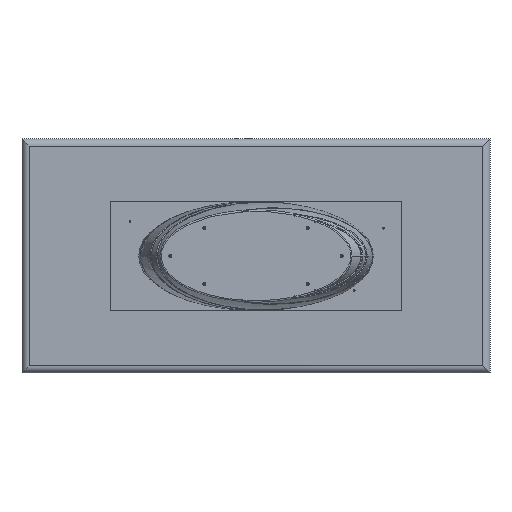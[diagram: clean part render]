
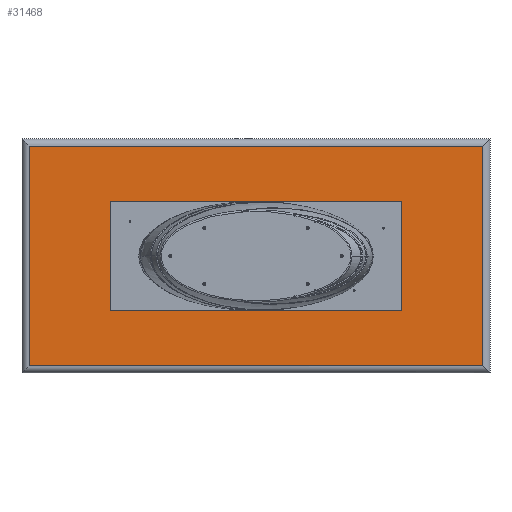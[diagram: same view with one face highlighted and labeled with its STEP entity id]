
A CAD part, front view. The second image highlights one B-rep face of the part: STEP entity #31468.
In plain terms, the highlighted planar face has unit normal (0, -1, 0).
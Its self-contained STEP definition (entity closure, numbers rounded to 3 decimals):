
#1004 = CARTESIAN_POINT ( 'NONE',  ( -1164., 40., 564. ) ) ;
#1040 = CARTESIAN_POINT ( 'NONE',  ( 1164., 40., -564. ) ) ;
#1234 = VECTOR ( 'NONE', #2031, 1000. ) ;
#1608 = CARTESIAN_POINT ( 'NONE',  ( 1164., 40., 600. ) ) ;
#2031 = DIRECTION ( 'NONE',  ( 1., 0., 0. ) ) ;
#4631 = DIRECTION ( 'NONE',  ( 0., 0., 1. ) ) ;
#6571 = EDGE_LOOP ( 'NONE', ( #32436, #36007, #7026, #34710 ) ) ;
#7026 = ORIENTED_EDGE ( 'NONE', *, *, #11405, .T. ) ;
#7038 = CARTESIAN_POINT ( 'NONE',  ( -1200., 40., 564. ) ) ;
#7820 = CARTESIAN_POINT ( 'NONE',  ( -1164., 40., -600. ) ) ;
#7834 = AXIS2_PLACEMENT_3D ( 'NONE', #12530, #18564, #9698 ) ;
#9246 = EDGE_CURVE ( 'NONE', #31222, #36343, #27664, .T. ) ;
#9654 = VECTOR ( 'NONE', #32732, 1000. ) ;
#9698 = DIRECTION ( 'NONE',  ( 0., 0., -1. ) ) ;
#11405 = EDGE_CURVE ( 'NONE', #21461, #14620, #21825, .T. ) ;
#12530 = CARTESIAN_POINT ( 'NONE',  ( 0., 40., 0. ) ) ;
#14620 = VERTEX_POINT ( 'NONE', #25001 ) ;
#16343 = DIRECTION ( 'NONE',  ( 0., 0., -1. ) ) ;
#17393 = VECTOR ( 'NONE', #4631, 1000. ) ;
#18564 = DIRECTION ( 'NONE',  ( 0., -1., 0. ) ) ;
#20340 = VECTOR ( 'NONE', #16343, 1000. ) ;
#21461 = VERTEX_POINT ( 'NONE', #1040 ) ;
#21825 = LINE ( 'NONE', #1608, #17393 ) ;
#25001 = CARTESIAN_POINT ( 'NONE',  ( 1164., 40., 564. ) ) ;
#27664 = LINE ( 'NONE', #7820, #20340 ) ;
#31208 = EDGE_CURVE ( 'NONE', #14620, #31222, #33485, .T. ) ;
#31222 = VERTEX_POINT ( 'NONE', #1004 ) ;
#31468 = ADVANCED_FACE ( 'NONE', ( #32917 ), #33306, .T. ) ;
#32436 = ORIENTED_EDGE ( 'NONE', *, *, #9246, .T. ) ;
#32632 = EDGE_CURVE ( 'NONE', #36343, #21461, #36230, .T. ) ;
#32732 = DIRECTION ( 'NONE',  ( -1., 0., 0. ) ) ;
#32917 = FACE_OUTER_BOUND ( 'NONE', #6571, .T. ) ;
#33306 = PLANE ( 'NONE',  #7834 ) ;
#33485 = LINE ( 'NONE', #7038, #9654 ) ;
#34710 = ORIENTED_EDGE ( 'NONE', *, *, #31208, .T. ) ;
#35712 = CARTESIAN_POINT ( 'NONE',  ( -1164., 40., -564. ) ) ;
#36007 = ORIENTED_EDGE ( 'NONE', *, *, #32632, .T. ) ;
#36230 = LINE ( 'NONE', #36588, #1234 ) ;
#36343 = VERTEX_POINT ( 'NONE', #35712 ) ;
#36588 = CARTESIAN_POINT ( 'NONE',  ( 1200., 40., -564. ) ) ;
